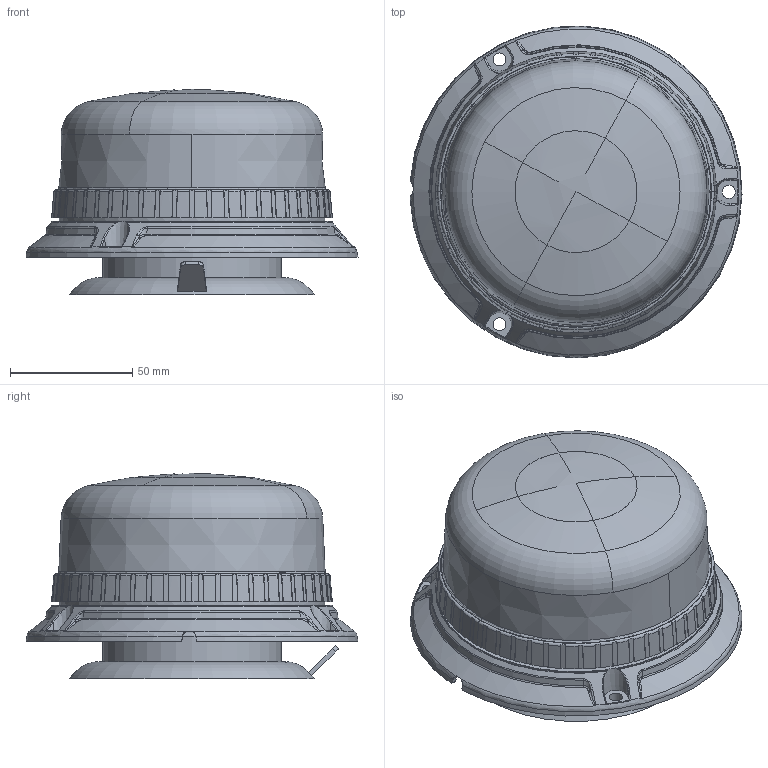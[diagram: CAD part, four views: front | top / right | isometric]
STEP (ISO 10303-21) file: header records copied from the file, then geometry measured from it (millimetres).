
FILE_DESCRIPTION(/* description */ (''),/* implementation_level */ '2;1');
FILE_NAME(/* name */ 'SM812HC-2222.stp',/* time_stamp */ '2020-09-16T13:58:02+08:00',/* author */ (''),/* organization */ (''),/* preprocessor_version */ 'ST-DEVELOPER v16',/* originating_system */ 'SIEMENS PLM Software NX 10.0',/* authorisation */ '');
FILE_SCHEMA (('AUTOMOTIVE_DESIGN { 1 0 10303 214 3 1 1 1 }'));
Length unit declared in the file: millimetre
Products named in the file (1): SM812HC
Bounding box: 135.71 x 135.69 x 83.86 mm (x, y, z)
Volume: 164465.6 mm3; surface area: 156627.6 mm2
Topology: 5 solids, 5 shells, 1922 faces, 5322 edges, 3455 vertices
Faces by surface type: revolution 726, plane 433, extrusion 323, cone 205, bspline 124, cylinder 71, torus 30, sphere 10
Full cylindrical faces by diameter (mm): 2 x1, 2.2 x4, 4 x1, 5.3 x3, 7 x1, 7.2 x1, 10 x1, 11 x1, 12 x1, 13.6 x1, 32.472 x1, 33 x1, 47 x1, 50 x1, 52 x1, 66 x1, 67 x1, 68 x1, 70 x2, 73 x1, 109.831 x1
Entity records: 91933 total; most frequent: CARTESIAN_POINT 49283, ORIENTED_EDGE 10458, DIRECTION 5233, EDGE_CURVE 5229, B_SPLINE_CURVE_WITH_KNOTS 4212, VERTEX_POINT 3420, EDGE_LOOP 2041, ADVANCED_FACE 1919
